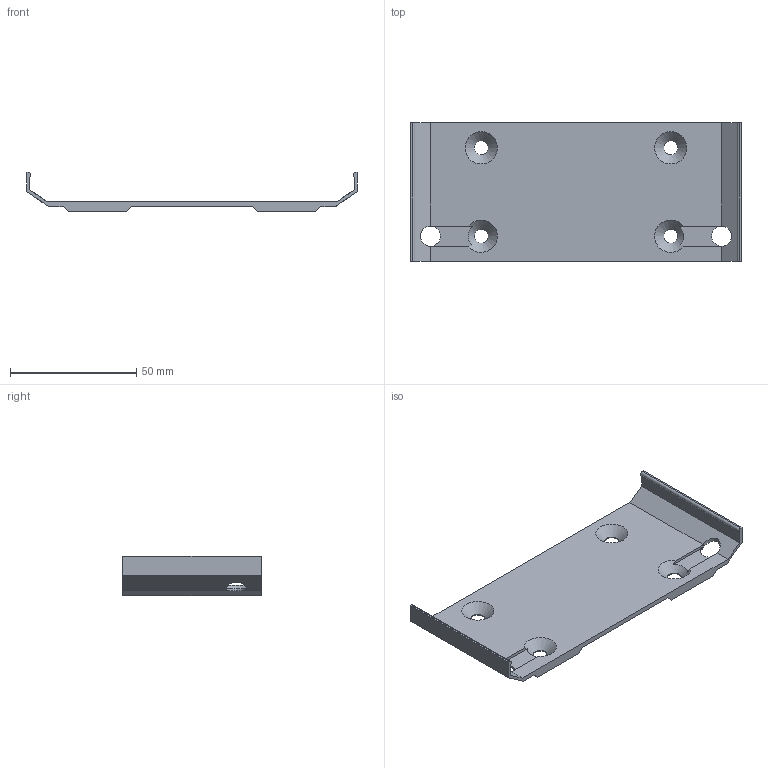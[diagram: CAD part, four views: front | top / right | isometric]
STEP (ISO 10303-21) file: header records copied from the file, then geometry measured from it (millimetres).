
FILE_DESCRIPTION(/* description */ ('STEP AP242','CAx-IF Rec.Pracs.---Representation and Presentation of Product Manufacturing Information (PMI)---4.0---2014-10-13','CAx-IF Rec.Pracs.---3D Tessellated Geometry---0.4---2014-09-14','2;1'),/* implementation_level */ '2;1');
FILE_NAME(/* name */ '6792aeb884cc9861630cab85',/* time_stamp */ '2025-01-23T21:03:53Z',/* author */ (''),/* organization */ (''),/* preprocessor_version */ 'ST-DEVELOPER v20',/* originating_system */ 'ONSHAPE BY PTC INC, 1.192',/* authorisation */ ' ');
FILE_SCHEMA (('AP242_MANAGED_MODEL_BASED_3D_ENGINEERING_MIM_LF { 1 0 10303 442 1 1 4 }'));
Length unit declared in the file: metre
Products named in the file (1): MOUNT BRACKET - ATOM MONSOON
Bounding box: 130.9 x 55 x 15.5 mm (x, y, z)
Volume: 18894.5 mm3; surface area: 17204.1 mm2
Topology: 1 solids, 1 shells, 40 faces, 122 edges, 78 vertices
Faces by surface type: plane 28, cylinder 8, cone 4
Full cylindrical faces by diameter (mm): 5.5 x4, 8 x2
Entity records: 1316 total; most frequent: CARTESIAN_POINT 235, ORIENTED_EDGE 216, DIRECTION 212, EDGE_CURVE 108, LINE 78, VECTOR 78, VERTEX_POINT 74, AXIS2_PLACEMENT_3D 67
